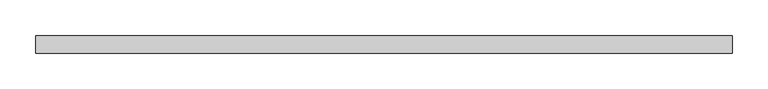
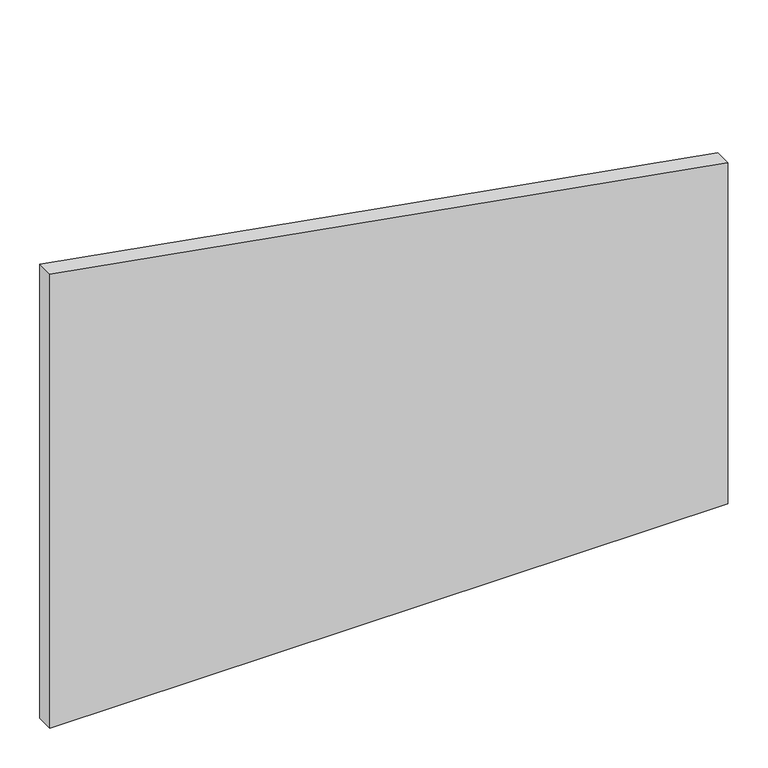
"""IFC4 building model written with IfcOpenShell, lengths in millimetres: plate geometry, 系統嵌板 : 有玻璃的."""

from ifc_helpers import new_model, si_unit, frame, origin, place, context, project, spatial, polyline, outline, extrude, source, transform, mapped, element, save


def plate_81e93dbd(model_context):
    return source(origin(), model_context, "Body", "SweptSolid", [
        extrude(outline(polyline([(0.0, -490.8333333), (0.0, 490.8333333), (521.7623359, 490.8333333), (694.8566553, -490.8333333), (0.0, -490.8333333)])), frame((0.0, 24.5, 0.0), z_axis=(0.0, 1.0, 0.0), x_axis=(0.0, 0.0, 1.0)), (0.0, 0.0, 1.0), 25.0),
    ])


if __name__ == "__main__":
    model = new_model("IFC4")
    model_context = context("Model", 3, world=origin())
    ifc_project = project(units=[si_unit("LENGTHUNIT", "METRE", prefix="MILLI")], contexts=[model_context])
    site = spatial("IfcSite", under=ifc_project)
    building = spatial("IfcBuilding", under=site)
    placement = place(None, origin())
    plate_shape = plate_81e93dbd(model_context)
    element("IfcPlate", 1, ObjectType="系統嵌板 : 有玻璃的", at=placement, inside=building, context=model_context, shape_type="MappedRepresentation", body=[
        mapped(plate_shape, transform((0.0, 0.0, 0.0), x_axis=(1.0, 0.0, 0.0), y_axis=(0.0, 1.0, 0.0), z_axis=(0.0, 0.0, 1.0))),
    ])
    save(model, "model.ifc")
